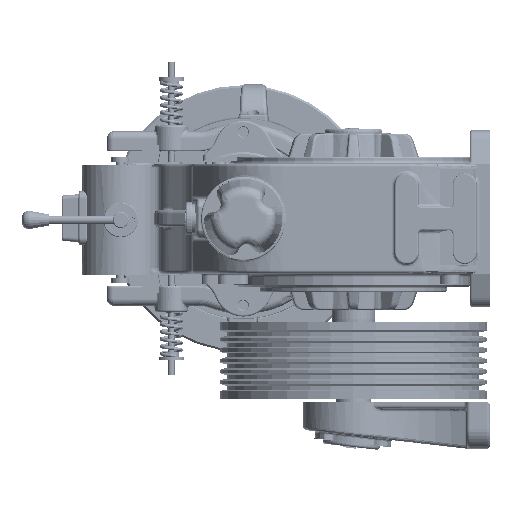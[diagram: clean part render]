
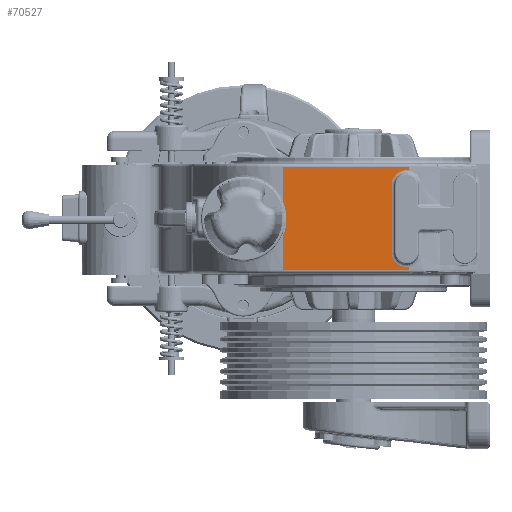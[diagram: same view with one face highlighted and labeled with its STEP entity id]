
A CAD part, left-side view. The second image highlights one B-rep face of the part: STEP entity #70527.
In plain terms, the highlighted planar face has unit normal (-1, 0, 0).
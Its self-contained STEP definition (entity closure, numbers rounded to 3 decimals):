
#652 = ORIENTED_EDGE ( 'NONE', *, *, #175889, .F. ) ;
#667 = DIRECTION ( 'NONE',  ( 0., 0., -1. ) ) ;
#3810 = CARTESIAN_POINT ( 'NONE',  ( -468.28, 10.271, 56.045 ) ) ;
#4236 = CARTESIAN_POINT ( 'NONE',  ( -468.28, -212.229, 6.045 ) ) ;
#5214 = CARTESIAN_POINT ( 'NONE',  ( -468.28, -48.63, 138.545 ) ) ;
#5570 = LINE ( 'NONE', #100887, #143716 ) ;
#7619 = VERTEX_POINT ( 'NONE', #233553 ) ;
#8379 = DIRECTION ( 'NONE',  ( 0., 0., -1. ) ) ;
#9844 = EDGE_CURVE ( 'NONE', #137101, #192582, #122079, .T. ) ;
#12472 = EDGE_CURVE ( 'NONE', #161333, #101414, #99207, .T. ) ;
#12631 = AXIS2_PLACEMENT_3D ( 'NONE', #68996, #145971, #197484 ) ;
#14059 = VECTOR ( 'NONE', #667, 1000. ) ;
#15059 = VERTEX_POINT ( 'NONE', #78511 ) ;
#18741 = EDGE_CURVE ( 'NONE', #204720, #157061, #206524, .T. ) ;
#20973 = CARTESIAN_POINT ( 'NONE',  ( -468.28, -48.63, 83.534 ) ) ;
#21878 = ORIENTED_EDGE ( 'NONE', *, *, #199148, .T. ) ;
#24231 = CARTESIAN_POINT ( 'NONE',  ( -468.28, -237.748, -21.455 ) ) ;
#31601 = ORIENTED_EDGE ( 'NONE', *, *, #169618, .T. ) ;
#32411 = CARTESIAN_POINT ( 'NONE',  ( -468.28, -48.63, 133.545 ) ) ;
#34516 = VECTOR ( 'NONE', #174610, 1000. ) ;
#38551 = CARTESIAN_POINT ( 'NONE',  ( -468.28, -48.63, 138.545 ) ) ;
#41668 = DIRECTION ( 'NONE',  ( 1., 0., 0. ) ) ;
#46431 = AXIS2_PLACEMENT_3D ( 'NONE', #131925, #76937, #240857 ) ;
#48720 = FACE_OUTER_BOUND ( 'NONE', #205673, .T. ) ;
#49933 = PLANE ( 'NONE',  #84579 ) ;
#50000 = LINE ( 'NONE', #124608, #188472 ) ;
#55673 = CARTESIAN_POINT ( 'NONE',  ( -468.28, -237.748, 133.545 ) ) ;
#59747 = CIRCLE ( 'NONE', #216002, 22.5 ) ;
#61547 = CARTESIAN_POINT ( 'NONE',  ( -468.28, -237.748, -21.455 ) ) ;
#62082 = VERTEX_POINT ( 'NONE', #177907 ) ;
#68996 = CARTESIAN_POINT ( 'NONE',  ( -468.28, -234.729, 106.045 ) ) ;
#70527 = ADVANCED_FACE ( 'NONE', ( #48720 ), #49933, .F. ) ;
#74044 = LINE ( 'NONE', #38551, #14059 ) ;
#76937 = DIRECTION ( 'NONE',  ( 1., 0., 0. ) ) ;
#78511 = CARTESIAN_POINT ( 'NONE',  ( -468.28, -237.748, -16.251 ) ) ;
#80108 = DIRECTION ( 'NONE',  ( 0., 0., 1. ) ) ;
#84579 = AXIS2_PLACEMENT_3D ( 'NONE', #102582, #177199, #123322 ) ;
#87914 = EDGE_CURVE ( 'NONE', #206617, #161333, #98126, .T. ) ;
#93597 = LINE ( 'NONE', #55673, #140289 ) ;
#95525 = CARTESIAN_POINT ( 'NONE',  ( -468.28, -234.729, 6.045 ) ) ;
#97010 = ORIENTED_EDGE ( 'NONE', *, *, #219022, .T. ) ;
#97862 = CARTESIAN_POINT ( 'NONE',  ( -468.28, -212.229, 106.045 ) ) ;
#98126 = LINE ( 'NONE', #5214, #99886 ) ;
#99207 = CIRCLE ( 'NONE', #169544, 65. ) ;
#99886 = VECTOR ( 'NONE', #118878, 1000. ) ;
#99930 = ORIENTED_EDGE ( 'NONE', *, *, #138558, .T. ) ;
#100887 = CARTESIAN_POINT ( 'NONE',  ( -468.28, -212.229, 106.045 ) ) ;
#101414 = VERTEX_POINT ( 'NONE', #159408 ) ;
#102582 = CARTESIAN_POINT ( 'NONE',  ( -468.28, -237.748, 138.545 ) ) ;
#116256 = DIRECTION ( 'NONE',  ( 0., 0., -1. ) ) ;
#117175 = LINE ( 'NONE', #24231, #34516 ) ;
#118878 = DIRECTION ( 'NONE',  ( 0., 0., -1. ) ) ;
#119613 = LINE ( 'NONE', #157480, #230309 ) ;
#122079 = CIRCLE ( 'NONE', #12631, 22.5 ) ;
#123322 = DIRECTION ( 'NONE',  ( 0., 0., -1. ) ) ;
#124608 = CARTESIAN_POINT ( 'NONE',  ( -468.28, -237.748, 138.545 ) ) ;
#126067 = CARTESIAN_POINT ( 'NONE',  ( -468.28, -237.748, 128.342 ) ) ;
#131925 = CARTESIAN_POINT ( 'NONE',  ( -468.28, -234.729, 6.045 ) ) ;
#137101 = VERTEX_POINT ( 'NONE', #97862 ) ;
#138558 = EDGE_CURVE ( 'NONE', #7619, #155642, #117175, .T. ) ;
#140289 = VECTOR ( 'NONE', #241634, 1000. ) ;
#141753 = EDGE_CURVE ( 'NONE', #62082, #206617, #93597, .T. ) ;
#143716 = VECTOR ( 'NONE', #80108, 1000. ) ;
#145971 = DIRECTION ( 'NONE',  ( 1., 0., 0. ) ) ;
#155336 = CARTESIAN_POINT ( 'NONE',  ( -468.28, -234.729, -16.455 ) ) ;
#155642 = VERTEX_POINT ( 'NONE', #61547 ) ;
#157061 = VERTEX_POINT ( 'NONE', #4236 ) ;
#157480 = CARTESIAN_POINT ( 'NONE',  ( -468.28, -237.748, 138.545 ) ) ;
#159408 = CARTESIAN_POINT ( 'NONE',  ( -468.28, -48.63, 28.556 ) ) ;
#161333 = VERTEX_POINT ( 'NONE', #20973 ) ;
#165760 = DIRECTION ( 'NONE',  ( 0., 0., -1. ) ) ;
#169544 = AXIS2_PLACEMENT_3D ( 'NONE', #3810, #41668, #116256 ) ;
#169618 = EDGE_CURVE ( 'NONE', #157061, #137101, #5570, .T. ) ;
#173879 = ORIENTED_EDGE ( 'NONE', *, *, #12472, .T. ) ;
#174610 = DIRECTION ( 'NONE',  ( 0., -1., 0. ) ) ;
#175889 = EDGE_CURVE ( 'NONE', #15059, #155642, #50000, .T. ) ;
#177199 = DIRECTION ( 'NONE',  ( 1., 0., 0. ) ) ;
#177907 = CARTESIAN_POINT ( 'NONE',  ( -468.28, -237.748, 133.545 ) ) ;
#181165 = ORIENTED_EDGE ( 'NONE', *, *, #87914, .T. ) ;
#185703 = ORIENTED_EDGE ( 'NONE', *, *, #187521, .F. ) ;
#187521 = EDGE_CURVE ( 'NONE', #62082, #192582, #119613, .T. ) ;
#188472 = VECTOR ( 'NONE', #165760, 1000. ) ;
#189732 = DIRECTION ( 'NONE',  ( 1., 0., 0. ) ) ;
#192582 = VERTEX_POINT ( 'NONE', #126067 ) ;
#193948 = ORIENTED_EDGE ( 'NONE', *, *, #141753, .T. ) ;
#197484 = DIRECTION ( 'NONE',  ( 0., 0., -1. ) ) ;
#199148 = EDGE_CURVE ( 'NONE', #101414, #7619, #74044, .T. ) ;
#204720 = VERTEX_POINT ( 'NONE', #155336 ) ;
#205673 = EDGE_LOOP ( 'NONE', ( #181165, #173879, #21878, #99930, #652, #97010, #239895, #31601, #215149, #185703, #193948 ) ) ;
#206524 = CIRCLE ( 'NONE', #46431, 22.5 ) ;
#206617 = VERTEX_POINT ( 'NONE', #32411 ) ;
#209287 = DIRECTION ( 'NONE',  ( 0., 0., -1. ) ) ;
#215149 = ORIENTED_EDGE ( 'NONE', *, *, #9844, .T. ) ;
#216002 = AXIS2_PLACEMENT_3D ( 'NONE', #95525, #189732, #209287 ) ;
#219022 = EDGE_CURVE ( 'NONE', #15059, #204720, #59747, .T. ) ;
#230309 = VECTOR ( 'NONE', #8379, 1000. ) ;
#233553 = CARTESIAN_POINT ( 'NONE',  ( -468.28, -48.63, -21.455 ) ) ;
#239895 = ORIENTED_EDGE ( 'NONE', *, *, #18741, .T. ) ;
#240857 = DIRECTION ( 'NONE',  ( 0., 0., -1. ) ) ;
#241634 = DIRECTION ( 'NONE',  ( 0., 1., 0. ) ) ;
